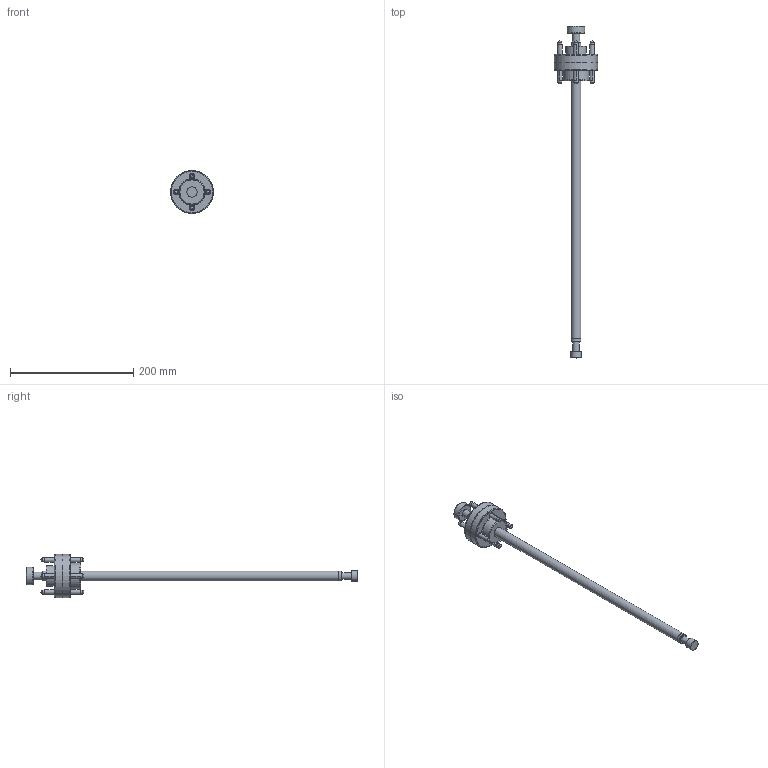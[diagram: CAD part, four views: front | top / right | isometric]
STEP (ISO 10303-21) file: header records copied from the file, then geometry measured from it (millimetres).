
FILE_DESCRIPTION (( 'STEP AP214' ), '1' );
FILE_NAME ('AS-16X500 SEMPLIFICATO.STEP', '2026-07-08T11:49:57', ( '' ), ( '' ), 'SwSTEP 2.0', 'SolidWorks 2025', '' );
FILE_SCHEMA (( 'AUTOMOTIVE_DESIGN' ));
Length unit declared in the file: millimetre
Products named in the file (10): AS16 CORPO SEDE SEMPLIFICATO; AS-16X500 SEMPLIFICATO; AS16_TESTA STELO SEMPLIFICATO; iso 4762 m8 x 20 - 20n_ISO 4762 M8 x 20 - 20N; AS16_PORTA SETTORI SEMPLIFICATO; AS16 SEDE STELO; AS16 FLANGIA SEDE SEMPLIFICATO; AS16_FLANGIA SEMPLIFICATO; AS16_STELO SEMPLIFICATO_AS16x500 STELO; AS16_CORPO SEMPLIFICATO
Assembly tree (9 placements, depth 2):
  AS-16X500 SEMPLIFICATO
    AS16_CORPO SEMPLIFICATO
    AS16_PORTA SETTORI SEMPLIFICATO
    AS16_FLANGIA SEMPLIFICATO
    AS16_STELO SEMPLIFICATO_AS16x500 STELO
    AS16_TESTA STELO SEMPLIFICATO
    iso 4762 m8 x 20 - 20n_ISO 4762 M8 x 20 - 20N
    AS16 SEDE STELO
    AS16 CORPO SEDE SEMPLIFICATO
    AS16 FLANGIA SEDE SEMPLIFICATO
Bounding box: 70 x 538 x 70 mm (x, y, z)
Volume: 212471.3 mm3; surface area: 81691.8 mm2
Topology: 7 solids, 25 shells, 172 faces, 384 edges, 254 vertices
Faces by surface type: cylinder 61, plane 55, cone 49, torus 7
Full cylindrical faces by diameter (mm): 6.5 x8, 6.8 x1, 8 x1, 8.4 x8, 8.5 x1, 10.5 x1, 12.5 x2, 13 x1, 13.1 x8, 13.5 x1, 16 x2, 16.1 x2, 17 x1, 29 x1, 29.7 x1, 30 x1, 30.2 x1, 33 x1, 33.2 x1, 33.9 x1, 41 x1, 41.5 x1, 70 x4
Entity records: 4781 total; most frequent: DIRECTION 788, CARTESIAN_POINT 670, ORIENTED_EDGE 450, AXIS2_PLACEMENT_3D 362, EDGE_LOOP 311, EDGE_CURVE 247, FACE_OUTER_BOUND 229, VERTEX_POINT 220
